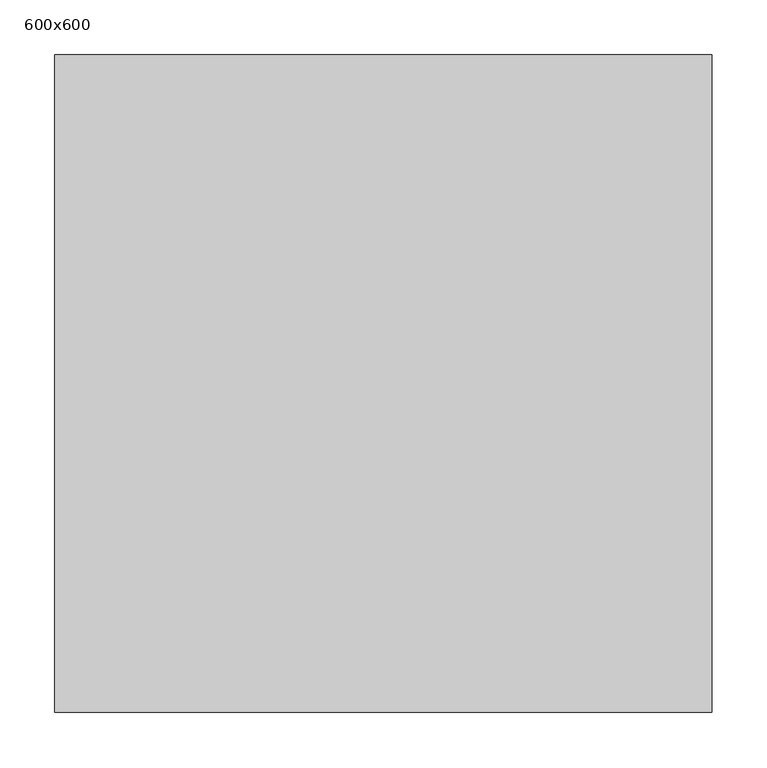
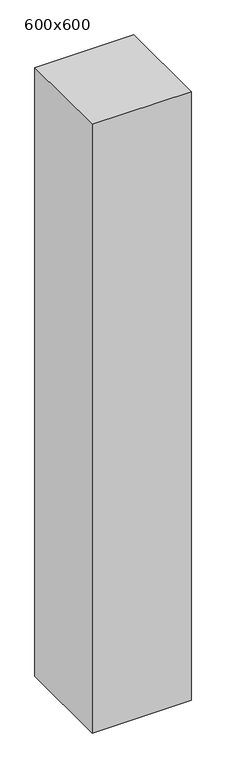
"""IFC4 building model written with IfcOpenShell, lengths in millimetres: column geometry, 混凝土 - 矩形 - 柱 : 600x600."""

from ifc_helpers import new_model, si_unit, frame, origin, place, context, project, spatial, polyline, outline, extrude, source, transform, mapped, element, save


def column_600x600_8ff94cf4(model_context):
    return source(origin(), model_context, "Body", "SweptSolid", [
        extrude(outline(polyline([(300.0, 300.0), (300.0, -300.0), (-300.0, -300.0), (-300.0, 300.0), (300.0, 300.0)])), frame((0.0, 0.0, 3200.0), z_axis=(0.0, 0.0, 1.0), x_axis=(1.0, 0.0, 0.0)), (0.0, 0.0, 1.0), 3900.0),
    ])


if __name__ == "__main__":
    model = new_model("IFC4")
    model_context = context("Model", 3, world=origin())
    ifc_project = project(units=[si_unit("LENGTHUNIT", "METRE", prefix="MILLI")], contexts=[model_context])
    site = spatial("IfcSite", under=ifc_project)
    building = spatial("IfcBuilding", under=site)
    placement = place(None, origin())
    column_600x600_shape = column_600x600_8ff94cf4(model_context)
    element("IfcColumn", 1, ObjectType="混凝土 - 矩形 - 柱 : 600x600", at=placement, inside=building, context=model_context, shape_type="MappedRepresentation", body=[
        mapped(column_600x600_shape, transform((0.0, 0.0, 0.0), x_axis=(1.0, 0.0, 0.0), y_axis=(0.0, 1.0, 0.0), z_axis=(0.0, 0.0, 1.0))),
    ])
    save(model, "model.ifc")
